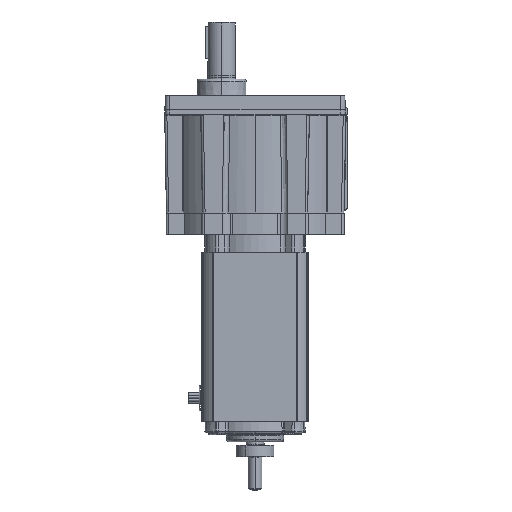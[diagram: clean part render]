
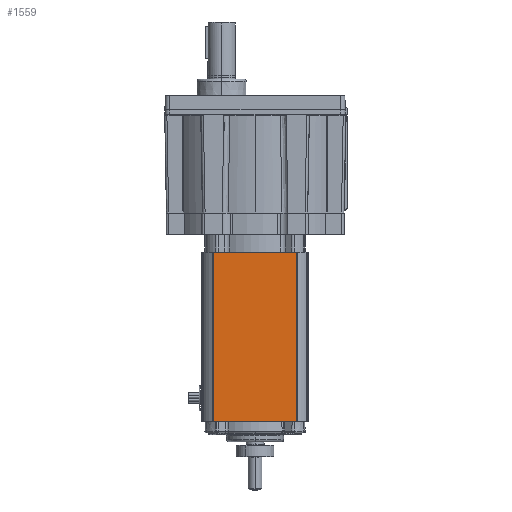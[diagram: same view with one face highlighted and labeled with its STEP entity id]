
A CAD part, left-side view. The second image highlights one B-rep face of the part: STEP entity #1559.
In plain terms, the highlighted planar face has unit normal (-1, 0, 0).
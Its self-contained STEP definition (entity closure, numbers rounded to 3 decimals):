
#1228 = DIRECTION ( 'NONE',  ( 0., 0., 1. ) ) ;
#1397 = CARTESIAN_POINT ( 'NONE',  ( -36.627, -29.35, -29.261 ) ) ;
#1539 = EDGE_CURVE ( 'NONE', #36995, #13648, #16109, .T. ) ;
#1559 = ADVANCED_FACE ( 'NONE', ( #18499 ), #4967, .T. ) ;
#2924 = CARTESIAN_POINT ( 'NONE',  ( -36.627, 28.842, -145.669 ) ) ;
#3951 = CARTESIAN_POINT ( 'NONE',  ( -36.627, 28.842, -147.523 ) ) ;
#4432 = DIRECTION ( 'NONE',  ( 0., 1., 0. ) ) ;
#4967 = PLANE ( 'NONE',  #25561 ) ;
#8491 = EDGE_CURVE ( 'NONE', #48985, #11739, #21238, .T. ) ;
#8545 = ORIENTED_EDGE ( 'NONE', *, *, #1539, .F. ) ;
#10923 = CARTESIAN_POINT ( 'NONE',  ( -36.627, 28.842, -29.261 ) ) ;
#11049 = DIRECTION ( 'NONE',  ( 0., 0., -1. ) ) ;
#11739 = VERTEX_POINT ( 'NONE', #2924 ) ;
#12813 = VECTOR ( 'NONE', #4432, 1000. ) ;
#13245 = EDGE_LOOP ( 'NONE', ( #30103, #38773, #42494, #8545 ) ) ;
#13322 = LINE ( 'NONE', #39744, #43586 ) ;
#13648 = VERTEX_POINT ( 'NONE', #41074 ) ;
#16109 = LINE ( 'NONE', #1397, #45130 ) ;
#18499 = FACE_OUTER_BOUND ( 'NONE', #13245, .T. ) ;
#20478 = CARTESIAN_POINT ( 'NONE',  ( -36.627, -28.842, -145.669 ) ) ;
#21238 = LINE ( 'NONE', #20478, #12813 ) ;
#24409 = CARTESIAN_POINT ( 'NONE',  ( -36.627, -29.35, -147.523 ) ) ;
#24509 = VECTOR ( 'NONE', #11049, 1000. ) ;
#25561 = AXIS2_PLACEMENT_3D ( 'NONE', #24409, #35570, #1228 ) ;
#26960 = LINE ( 'NONE', #3951, #24509 ) ;
#28141 = DIRECTION ( 'NONE',  ( 0., -1., 0. ) ) ;
#28267 = DIRECTION ( 'NONE',  ( 0., 0., 1. ) ) ;
#30103 = ORIENTED_EDGE ( 'NONE', *, *, #44720, .T. ) ;
#31706 = EDGE_CURVE ( 'NONE', #48985, #13648, #13322, .T. ) ;
#35570 = DIRECTION ( 'NONE',  ( -1., 0., 0. ) ) ;
#36995 = VERTEX_POINT ( 'NONE', #10923 ) ;
#38773 = ORIENTED_EDGE ( 'NONE', *, *, #8491, .F. ) ;
#39744 = CARTESIAN_POINT ( 'NONE',  ( -36.627, -28.842, -147.523 ) ) ;
#41074 = CARTESIAN_POINT ( 'NONE',  ( -36.627, -28.842, -29.261 ) ) ;
#42494 = ORIENTED_EDGE ( 'NONE', *, *, #31706, .T. ) ;
#43186 = CARTESIAN_POINT ( 'NONE',  ( -36.627, -28.842, -145.669 ) ) ;
#43586 = VECTOR ( 'NONE', #28267, 1000. ) ;
#44720 = EDGE_CURVE ( 'NONE', #36995, #11739, #26960, .T. ) ;
#45130 = VECTOR ( 'NONE', #28141, 1000. ) ;
#48985 = VERTEX_POINT ( 'NONE', #43186 ) ;
